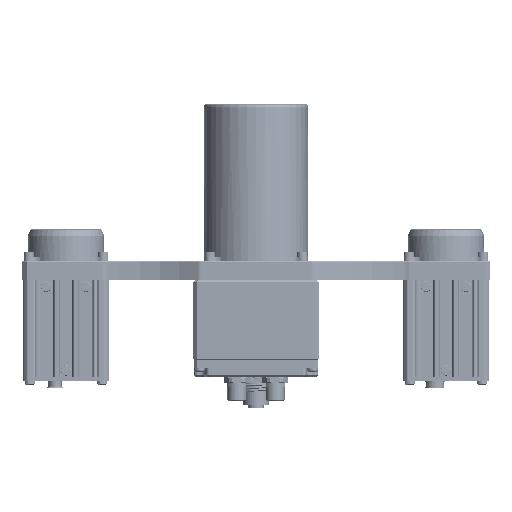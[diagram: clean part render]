
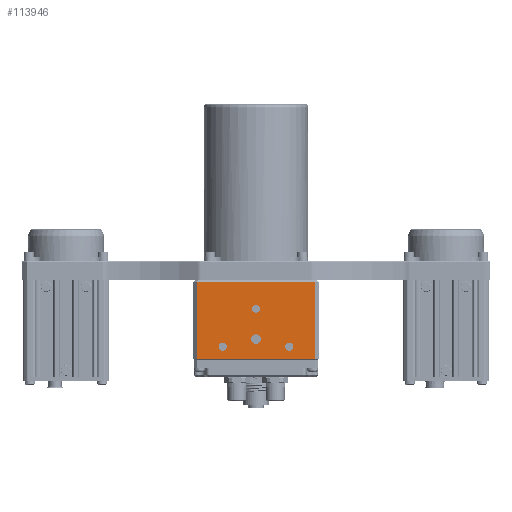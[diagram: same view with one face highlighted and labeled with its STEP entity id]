
A CAD part, front view. The second image highlights one B-rep face of the part: STEP entity #113946.
In plain terms, the highlighted planar face has unit normal (0, -1, 0).
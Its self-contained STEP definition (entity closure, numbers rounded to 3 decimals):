
#2127=PLANE('',#124062);
#3421=FACE_BOUND('',#13376,.T.);
#3422=FACE_BOUND('',#13377,.T.);
#3423=FACE_BOUND('',#13378,.T.);
#3424=FACE_BOUND('',#13379,.T.);
#7175=FACE_OUTER_BOUND('',#13375,.T.);
#13375=EDGE_LOOP('',(#87588,#87589,#87590,#87591));
#13376=EDGE_LOOP('',(#87592));
#13377=EDGE_LOOP('',(#87593));
#13378=EDGE_LOOP('',(#87594));
#13379=EDGE_LOOP('',(#87595));
#20415=CIRCLE('',#124063,2.1);
#20416=CIRCLE('',#124064,2.1);
#20417=CIRCLE('',#124065,2.1);
#20418=CIRCLE('',#124066,2.553);
#28454=LINE('',#198396,#37434);
#28484=LINE('',#198454,#37464);
#28488=LINE('',#198461,#37468);
#28491=LINE('',#198465,#37471);
#37434=VECTOR('',#148357,1000.);
#37464=VECTOR('',#148411,1000.);
#37468=VECTOR('',#148421,1000.);
#37471=VECTOR('',#148426,1000.);
#48248=VERTEX_POINT('',#198379);
#48254=VERTEX_POINT('',#198394);
#48268=VERTEX_POINT('',#198444);
#48270=VERTEX_POINT('',#198452);
#48274=VERTEX_POINT('',#198478);
#48275=VERTEX_POINT('',#198480);
#48276=VERTEX_POINT('',#198482);
#48277=VERTEX_POINT('',#198484);
#62148=EDGE_CURVE('',#48248,#48254,#28454,.T.);
#62178=EDGE_CURVE('',#48268,#48270,#28484,.T.);
#62182=EDGE_CURVE('',#48254,#48268,#28488,.T.);
#62185=EDGE_CURVE('',#48270,#48248,#28491,.T.);
#62191=EDGE_CURVE('',#48274,#48274,#20415,.T.);
#62192=EDGE_CURVE('',#48275,#48275,#20416,.T.);
#62193=EDGE_CURVE('',#48276,#48276,#20417,.T.);
#62194=EDGE_CURVE('',#48277,#48277,#20418,.T.);
#87588=ORIENTED_EDGE('',*,*,#62185,.T.);
#87589=ORIENTED_EDGE('',*,*,#62148,.T.);
#87590=ORIENTED_EDGE('',*,*,#62182,.T.);
#87591=ORIENTED_EDGE('',*,*,#62178,.T.);
#87592=ORIENTED_EDGE('',*,*,#62191,.F.);
#87593=ORIENTED_EDGE('',*,*,#62192,.F.);
#87594=ORIENTED_EDGE('',*,*,#62193,.F.);
#87595=ORIENTED_EDGE('',*,*,#62194,.F.);
#113946=ADVANCED_FACE('',(#7175,#3421,#3422,#3423,#3424),#2127,.T.);
#124062=AXIS2_PLACEMENT_3D('',#198477,#148441,#148442);
#124063=AXIS2_PLACEMENT_3D('',#198479,#148443,#148444);
#124064=AXIS2_PLACEMENT_3D('',#198481,#148445,#148446);
#124065=AXIS2_PLACEMENT_3D('',#198483,#148447,#148448);
#124066=AXIS2_PLACEMENT_3D('',#198485,#148449,#148450);
#148357=DIRECTION('',(1.,0.,0.));
#148411=DIRECTION('',(-1.,0.,0.));
#148421=DIRECTION('',(0.,0.,1.));
#148426=DIRECTION('',(0.,0.,-1.));
#148441=DIRECTION('center_axis',(0.,-1.,0.));
#148442=DIRECTION('ref_axis',(0.,0.,
-1.));
#148443=DIRECTION('center_axis',(0.,-1.,0.));
#148444=DIRECTION('ref_axis',(0.,0.,
-1.));
#148445=DIRECTION('center_axis',(0.,-1.,0.));
#148446=DIRECTION('ref_axis',(0.,0.,
-1.));
#148447=DIRECTION('center_axis',(0.,-1.,0.));
#148448=DIRECTION('ref_axis',(0.,0.,
-1.));
#148449=DIRECTION('center_axis',(0.,-1.,0.));
#148450=DIRECTION('ref_axis',(0.,0.,
-1.));
#198379=CARTESIAN_POINT('',(-31.,-35.,-51.5));
#198394=CARTESIAN_POINT('',(31.,-35.,-51.5));
#198396=CARTESIAN_POINT('',(31.,-35.,-51.5));
#198444=CARTESIAN_POINT('',(31.,-35.,-11.));
#198452=CARTESIAN_POINT('',(-31.,-35.,-11.));
#198454=CARTESIAN_POINT('',(-33.,-35.,-11.));
#198461=CARTESIAN_POINT('',(31.,-35.,-52.));
#198465=CARTESIAN_POINT('',(-31.,-35.,-52.));
#198477=CARTESIAN_POINT('Origin',(-33.,-35.,-52.));
#198478=CARTESIAN_POINT('',(0.,-35.,-22.9));
#198479=CARTESIAN_POINT('Origin',(0.,-35.,-25.));
#198480=CARTESIAN_POINT('',(17.5,-35.,-42.9));
#198481=CARTESIAN_POINT('Origin',(17.5,-35.,-45.));
#198482=CARTESIAN_POINT('',(-17.5,-35.,-42.9));
#198483=CARTESIAN_POINT('Origin',(-17.5,-35.,-45.));
#198484=CARTESIAN_POINT('',(0.,-35.,-38.447));
#198485=CARTESIAN_POINT('Origin',(0.,-35.,
-41.));
